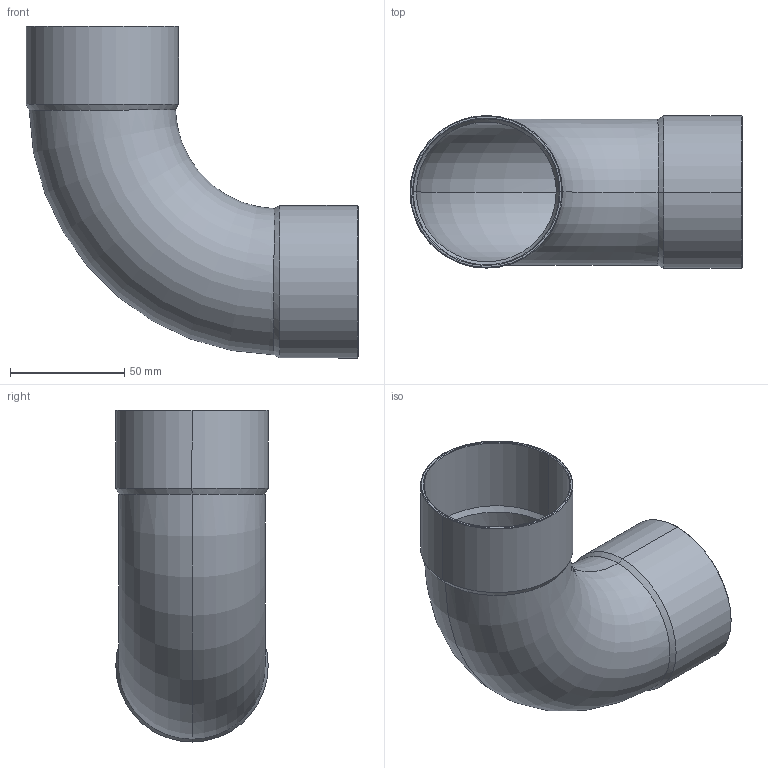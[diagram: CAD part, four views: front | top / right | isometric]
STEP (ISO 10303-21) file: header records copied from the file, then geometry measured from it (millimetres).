
FILE_DESCRIPTION((''),'2;1');
FILE_NAME('D:\5002\15002a64.stp','2005-10-04T11:51:53',('Kris'),(''),'Autodesk Inventor 8','Autodesk Inventor 8','');
FILE_SCHEMA(('AUTOMOTIVE_DESIGN { 1 0 10303 214 1 1 1 1 }'));
Length unit declared in the file: millimetre
Products named in the file (1): 15002a64
Bounding box: 145.4 x 66.8 x 145.4 mm (x, y, z)
Volume: 53642.8 mm3; surface area: 77115.4 mm2
Topology: 1 solids, 1 shells, 30 faces, 60 edges, 32 vertices
Faces by surface type: cone 12, bspline 9, torus 4, cylinder 4, plane 1
Entity records: 1031 total; most frequent: CARTESIAN_POINT 418, DIRECTION 124, ORIENTED_EDGE 120, EDGE_CURVE 60, AXIS2_PLACEMENT_3D 50, VERTEX_POINT 32, EDGE_LOOP 32, FACE_OUTER_BOUND 30
